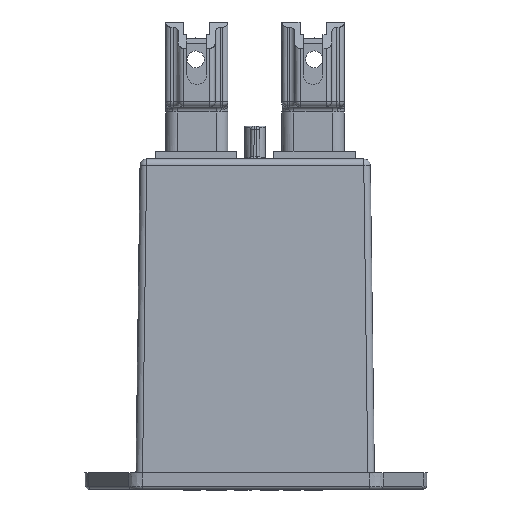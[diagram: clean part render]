
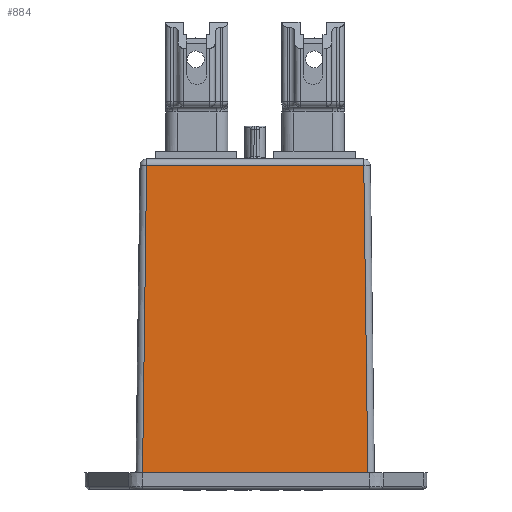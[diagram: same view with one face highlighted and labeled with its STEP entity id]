
A CAD part, left-side view. The second image highlights one B-rep face of the part: STEP entity #884.
In plain terms, the highlighted planar face has unit normal (-1, 0, 0.013).
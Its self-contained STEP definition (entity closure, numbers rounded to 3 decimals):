
#884 = ADVANCED_FACE( '', ( #2435 ), #2436, .F. );
#2435 = FACE_OUTER_BOUND( '', #5060, .T. );
#2436 = PLANE( '', #5061 );
#5060 = EDGE_LOOP( '', ( #10044, #10045, #10046, #10047 ) );
#5061 = AXIS2_PLACEMENT_3D( '', #10048, #10049, #10050 );
#10044 = ORIENTED_EDGE( '', *, *, #16706, .T. );
#10045 = ORIENTED_EDGE( '', *, *, #16707, .T. );
#10046 = ORIENTED_EDGE( '', *, *, #16708, .T. );
#10047 = ORIENTED_EDGE( '', *, *, #16709, .T. );
#10048 = CARTESIAN_POINT( '', ( -11.77, 18.17, 0. ) );
#10049 = DIRECTION( '', ( 1., 0., -0.013 ) );
#10050 = DIRECTION( '', ( 0., -1., 0. ) );
#16706 = EDGE_CURVE( '', #19716, #19717, #19718, .T. );
#16707 = EDGE_CURVE( '', #19717, #19719, #19720, .T. );
#16708 = EDGE_CURVE( '', #19719, #19721, #19722, .T. );
#16709 = EDGE_CURVE( '', #19721, #19716, #19723, .T. );
#19716 = VERTEX_POINT( '', #24236 );
#19717 = VERTEX_POINT( '', #24237 );
#19718 = LINE( '', #24238, #24239 );
#19719 = VERTEX_POINT( '', #24240 );
#19720 = LINE( '', #24241, #24242 );
#19721 = VERTEX_POINT( '', #24243 );
#19722 = LINE( '', #24244, #24245 );
#19723 = LINE( '', #24246, #24247 );
#24236 = CARTESIAN_POINT( '', ( -11.162, 16.533, 48.413 ) );
#24237 = CARTESIAN_POINT( '', ( -11.75, 17.149, 1.6 ) );
#24238 = CARTESIAN_POINT( '', ( -11.77, 17.17, -0.013 ) );
#24239 = VECTOR( '', #29627, 1000. );
#24240 = CARTESIAN_POINT( '', ( -11.75, -17.149, 1.6 ) );
#24241 = CARTESIAN_POINT( '', ( -11.75, 18.17, 1.6 ) );
#24242 = VECTOR( '', #29628, 1000. );
#24243 = CARTESIAN_POINT( '', ( -11.162, -16.533, 48.413 ) );
#24244 = CARTESIAN_POINT( '', ( -11.764, -17.164, 0.465 ) );
#24245 = VECTOR( '', #29629, 1000. );
#24246 = CARTESIAN_POINT( '', ( -11.162, 18.17, 48.413 ) );
#24247 = VECTOR( '', #29630, 1000. );
#29627 = DIRECTION( '', ( -0.013, 0.013, -1. ) );
#29628 = DIRECTION( '', ( 0., -1., 0. ) );
#29629 = DIRECTION( '', ( 0.013, 0.013, 1. ) );
#29630 = DIRECTION( '', ( 0., 1., 0. ) );
